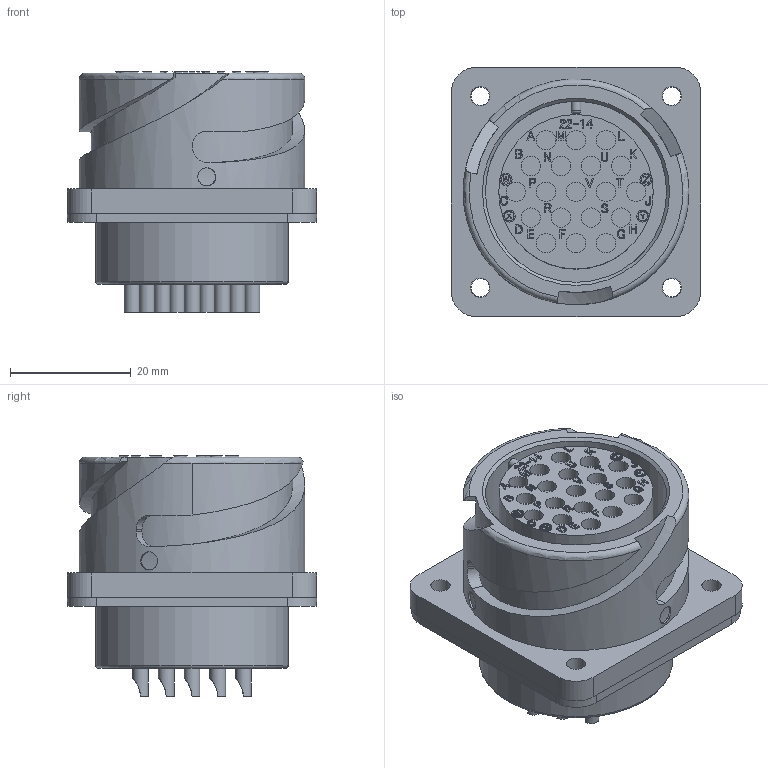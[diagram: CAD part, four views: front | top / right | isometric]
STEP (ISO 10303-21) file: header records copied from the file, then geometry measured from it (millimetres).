
FILE_DESCRIPTION (( 'STEP AP203' ), '1' );
FILE_NAME ('DCA3102R22-14S-D.STEP', '2019-07-19T07:54:20', ( '' ), ( '' ), 'SwSTEP 2.0', 'SolidWorks 2018', '' );
FILE_SCHEMA (( 'CONFIG_CONTROL_DESIGN' ));
Length unit declared in the file: millimetre
Products named in the file (1): DCA3102R22-14S-D
Bounding box: 41.28 x 41.28 x 39.8 mm (x, y, z)
Volume: 32741.7 mm3; surface area: 13888.3 mm2
Topology: 1 solids, 1 shells, 1129 faces, 3010 edges, 2000 vertices
Faces by surface type: plane 639, bspline 303, cylinder 142, cone 40, torus 5
Full cylindrical faces by diameter (mm): 1.6 x8, 2 x27, 2.6 x19, 3.05 x4, 3.2 x42, 25.6 x1, 28 x1, 30.03 x1, 32 x1, 37.4 x1
Entity records: 44814 total; most frequent: CARTESIAN_POINT 19896, ORIENTED_EDGE 5498, DIRECTION 3989, EDGE_CURVE 2749, VERTEX_POINT 1889, LINE 1817, VECTOR 1817, EDGE_LOOP 1402
